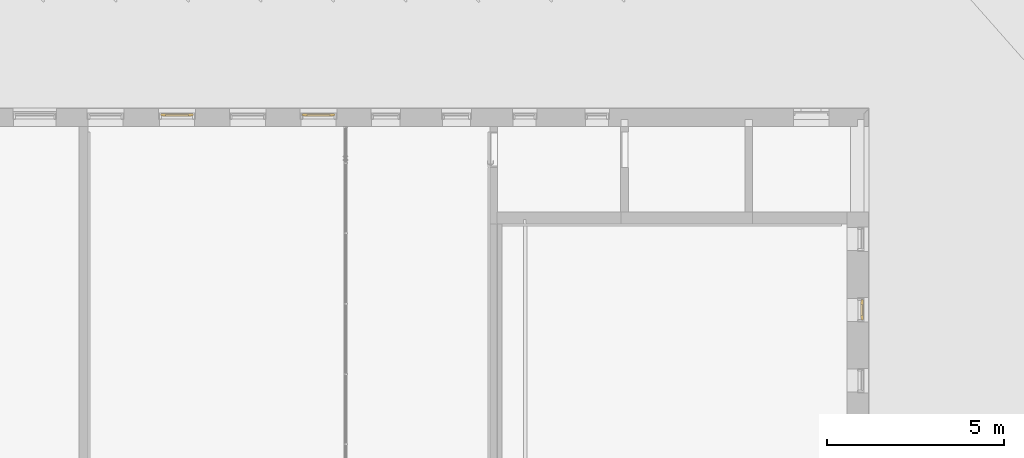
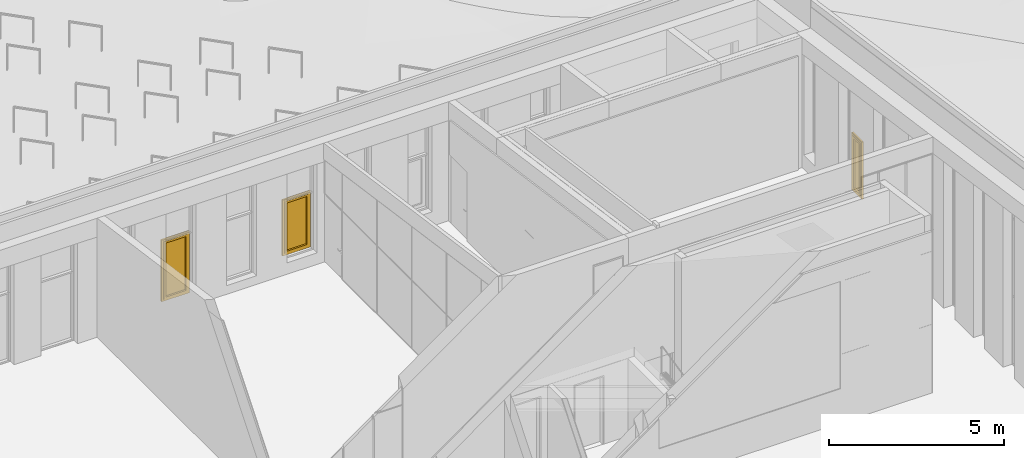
# One storey, part 164 of 246: 3 windows, 3 elements without a shape of their own.
"""IFC2X3 building model written with IfcOpenShell, lengths in millimetres."""

import ifcopenshell
import ifcopenshell.guid

model = None  # the IFC model being written
_history = None  # IfcOwnerHistory: only IFC2X3 demands one
_inside = {}  # id of a spatial element -> (the spatial element, [elements in it])
_under = {}  # id of a project, library or spatial element -> (it, [spatial elements below it])
_declared = {}  # id of a project -> (the project, [libraries it declares])
_typed = {}  # id of a type object -> (the type object, [elements of that type])
_made_of = {}  # id of a material, layer set ... -> (it, [elements and type objects made of it])


def new_model(schema):
    """Start an empty IFC model of exactly this schema.

    Asked for "IFC4X3", IfcOpenShell would pick the latest addendum, in which some entities
    have other attributes; the version numbers below select the first issue.
    IFC2X3 requires an IfcOwnerHistory on every rooted entity: one is made here for all.
    """
    global model, _history
    if schema == "IFC4X3":
        model = ifcopenshell.file(schema_version=(4, 3, 0, 0))
    else:
        model = ifcopenshell.file(schema=schema)
    _inside.clear()
    _under.clear()
    _declared.clear()
    _typed.clear()
    _made_of.clear()
    _history = None
    if model.schema == "IFC2X3":
        org = make("IfcOrganization", Name="unknown")
        user = make(
            "IfcPersonAndOrganization",
            ThePerson=make("IfcPerson", FamilyName="unknown"),
            TheOrganization=org,
        )
        app = make(
            "IfcApplication",
            ApplicationDeveloper=org,
            Version="unknown",
            ApplicationFullName="unknown",
            ApplicationIdentifier="unknown",
        )
        _history = make(
            "IfcOwnerHistory",
            OwningUser=user,
            OwningApplication=app,
            ChangeAction="ADDED",
            CreationDate=0,
        )
    return model


def make(cls, **values):
    """One entity of the class cls with the attributes given. An attribute that is None is left unset."""
    return model.create_entity(
        cls, **{name: value for name, value in values.items() if value is not None}
    )


def entity(cls, *values):
    """Any entity or typed value of the class cls, its attributes in the order of the schema. None: left unset."""
    e = model.create_entity(cls)
    for i, value in enumerate(values):
        if value is not None:
            e[i] = value
    return e


def rooted(cls, **values):
    """An entity with a GlobalId (a new one), such as an element, a storey or a relation."""
    return make(cls, GlobalId=ifcopenshell.guid.new(), OwnerHistory=_history, **values)


def si_unit(unit_type, name, prefix=None):
    """IfcSIUnit, for example si_unit("LENGTHUNIT", "METRE", prefix="MILLI")."""
    return make("IfcSIUnit", UnitType=unit_type, Prefix=prefix, Name=name)


def converted_unit(unit_type, name, factor, base, dimensions=None, offset=None):
    """IfcConversionBasedUnit, such as the inch: factor (a typed value) times the base unit."""
    return make(
        "IfcConversionBasedUnit"
        if offset is None
        else "IfcConversionBasedUnitWithOffset",
        ConversionOffset=offset,
        Dimensions=None
        if dimensions is None
        else entity("IfcDimensionalExponents", *dimensions),
        UnitType=unit_type,
        Name=name,
        ConversionFactor=make(
            "IfcMeasureWithUnit", ValueComponent=factor, UnitComponent=base
        ),
    )


def derived_unit(unit_type, elements):
    """IfcDerivedUnit: a product of units, each with its exponent."""
    return make(
        "IfcDerivedUnit",
        Elements=[
            make("IfcDerivedUnitElement", Unit=unit, Exponent=power)
            for unit, power in elements
        ],
        UnitType=unit_type,
    )


def money_unit(currency):
    """IfcMonetaryUnit."""
    return make("IfcMonetaryUnit", Currency=currency)


def assignment(units):
    """IfcUnitAssignment: the units of a project."""
    return None if units is None else make("IfcUnitAssignment", Units=units)


def point(xyz):
    """IfcCartesianPoint."""
    return None if xyz is None else make("IfcCartesianPoint", Coordinates=xyz)


def direction(xyz):
    """IfcDirection."""
    return None if xyz is None else make("IfcDirection", DirectionRatios=xyz)


def frame(location, z_axis=None, x_axis=None):
    """IfcAxis2Placement3D, a coordinate frame: its origin and axes. An axis left out is left unset."""
    return make(
        "IfcAxis2Placement3D",
        Location=point(location),
        Axis=direction(z_axis),
        RefDirection=direction(x_axis),
    )


def origin_with_axes():
    """The frame at (0, 0, 0) with the z axis (0, 0, 1) and the x axis (1, 0, 0) written out."""
    return frame((0.0, 0.0, 0.0), z_axis=(0.0, 0.0, 1.0), x_axis=(1.0, 0.0, 0.0))


def place(relative_to, where):
    """IfcLocalPlacement: puts the frame where relative to a parent placement (None: the world)."""
    return make(
        "IfcLocalPlacement", PlacementRelTo=relative_to, RelativePlacement=where
    )


def context(
    kind, dimensions, precision=None, world=None, true_north=None, identifier=None
):
    """IfcGeometricRepresentationContext, for example the 3D "Model" context."""
    return make(
        "IfcGeometricRepresentationContext",
        ContextIdentifier=identifier,
        ContextType=kind,
        CoordinateSpaceDimension=dimensions,
        Precision=precision,
        WorldCoordinateSystem=world,
        TrueNorth=true_north,
    )


def subcontext(parent, identifier, kind, view, scale=None):
    """IfcGeometricRepresentationSubContext, for example "Body" below "Model"."""
    return make(
        "IfcGeometricRepresentationSubContext",
        ContextIdentifier=identifier,
        ContextType=kind,
        ParentContext=parent,
        TargetScale=scale,
        TargetView=view,
    )


def project(units=None, contexts=None):
    """IfcProject with its units and contexts."""
    return rooted(
        "IfcProject",
        Name="project",
        RepresentationContexts=contexts,
        UnitsInContext=assignment(units),
    )


def spatial(cls, under=None, at=None, **own):
    """A site, building, storey or space (cls), placed at a placement, below another one or the project."""
    s = rooted(cls, ObjectPlacement=at, **own)
    if under is not None:
        _under.setdefault(under.id(), (under, []))[1].append(s)
    return s


def faces_of(points, faces, orient=None, outer=None):
    """IfcFace entities. A face is a list of loops; a loop is a list of indices into points, from 0.

    orient and outer hold one flag for each loop. By default every Orientation is true, the
    first loop of a face is its IfcFaceOuterBound and the others are IfcFaceBound.
    """
    made = []
    for i, loops in enumerate(faces):
        bounds = []
        for j, loop in enumerate(loops):
            is_outer = j == 0 if outer is None else outer[i][j]
            bounds.append(
                make(
                    "IfcFaceOuterBound" if is_outer else "IfcFaceBound",
                    Bound=make("IfcPolyLoop", Polygon=[points[k] for k in loop]),
                    Orientation=True if orient is None else orient[i][j],
                )
            )
        made.append(make("IfcFace", Bounds=bounds))
    return made


def open_shell(faces, orient=None, outer=None):
    """The faces of one IfcOpenShell. surface_model builds it on its shared points."""
    return ("IfcOpenShell", faces, orient, outer)


def faceted_brep(points, faces, orient=None, outer=None, voids=None):
    """IfcFacetedBrep: a solid bounded by flat faces; with voids (closed shells), ...WithVoids."""
    shared = [point(p) for p in points]
    hull = make("IfcClosedShell", CfsFaces=faces_of(shared, faces, orient, outer))
    if voids is None:
        return make("IfcFacetedBrep", Outer=hull)
    return make(
        "IfcFacetedBrepWithVoids",
        Outer=hull,
        Voids=[
            make(cls, CfsFaces=faces_of(shared, fs, o, b)) for cls, fs, o, b in voids
        ],
    )


def surface_model(cls, points, shells):
    """IfcFaceBasedSurfaceModel or IfcShellBasedSurfaceModel (cls): surfaces that need not close."""
    shared = [point(p) for p in points]
    made = [make(c, CfsFaces=faces_of(shared, fs, o, b)) for c, fs, o, b in shells]
    if cls == "IfcFaceBasedSurfaceModel":
        return make(cls, FbsmFaces=made)
    return make(cls, SbsmBoundary=made)


def shape(context_of_items, identifier, shape_type, items):
    """IfcShapeRepresentation: the items that make up one representation, for example the "Body"."""
    return make(
        "IfcShapeRepresentation",
        ContextOfItems=context_of_items,
        RepresentationIdentifier=identifier,
        RepresentationType=shape_type,
        Items=items,
    )


def material(Name=None, Category=None):
    """IfcMaterial."""
    return make("IfcMaterial", Name=Name, Category=Category)


def material_list(materials):
    """IfcMaterialList."""
    return make("IfcMaterialList", Materials=materials)


def made_of(thing, what):
    """Note that an element or type object is made of a material, layer set ...; save() writes the relation."""
    if what is not None:
        _made_of.setdefault(what.id(), (what, []))[1].append(thing)
    return thing


def type_object(cls, material=None, **own):
    """A type object (cls), such as IfcWallType, which elements share."""
    return made_of(rooted(cls, **own), material)


def element(
    cls,
    number,
    at=None,
    inside=None,
    cuts=None,
    type_object=None,
    material=None,
    context=None,
    identifier="Body",
    shape_type=None,
    held_by="IfcProductDefinitionShape",
    body=None,
    shapes=None,
    **own,
):
    """One element of the class cls, such as IfcWall. Its Tag is "e" and its number.

    at: its placement. inside: the storey or other place that contains it. cuts: it is an
    opening in that element (IfcRelVoidsElement). A single representation is given by context,
    identifier, shape_type and body (its items); several are given by shapes. held_by: the class
    of the entity that holds the representations. save() writes the other relations.
    """
    e = rooted(cls, Tag="e%d" % number, ObjectPlacement=at, **own)
    if body is not None:
        shapes = [shape(context, identifier, shape_type, body)]
    if shapes is not None:
        e.Representation = make(held_by, Representations=shapes)
    if inside is not None:
        _inside.setdefault(inside.id(), (inside, []))[1].append(e)
    if cuts is not None:
        rooted(
            "IfcRelVoidsElement", RelatingBuildingElement=cuts, RelatedOpeningElement=e
        )
    if type_object is not None:
        _typed.setdefault(type_object.id(), (type_object, []))[1].append(e)
    return made_of(e, material)


def aggregate(whole, parts):
    """IfcRelAggregates: a whole, such as a stair, and the parts it consists of."""
    return rooted("IfcRelAggregates", RelatingObject=whole, RelatedObjects=parts)


def save(model, path):
    """Write the relations noted so far, then the file.

    IfcRelAggregates (storeys below a building ...), IfcRelContainedInSpatialStructure (elements
    in a storey), IfcRelDefinesByType, IfcRelAssociatesMaterial and IfcRelDeclares: one each for
    every whole, place, type object, material and project.
    """
    for whole, parts in _under.values():
        aggregate(whole, parts)
    for where, things in _inside.values():
        rooted(
            "IfcRelContainedInSpatialStructure",
            RelatedElements=things,
            RelatingStructure=where,
        )
    for kind, things in _typed.values():
        rooted("IfcRelDefinesByType", RelatedObjects=things, RelatingType=kind)
    for what, things in _made_of.values():
        rooted("IfcRelAssociatesMaterial", RelatedObjects=things, RelatingMaterial=what)
    for by, libraries in _declared.values():
        rooted("IfcRelDeclares", RelatingContext=by, RelatedDefinitions=libraries)
    model.write(path)


model = new_model("IFC2X3")

# Units and contexts
model_context = context("Model", 3, precision=0.01, world=origin_with_axes(), true_north=direction((0.0, 1.0)))
body_context = subcontext(model_context, "Body", "Model", "MODEL_VIEW")
ifc_project = project(units=[si_unit("LENGTHUNIT", "METRE", prefix="MILLI"), si_unit("AREAUNIT", "SQUARE_METRE"), si_unit("VOLUMEUNIT", "CUBIC_METRE"), converted_unit("PLANEANGLEUNIT", "DEGREE", entity("IfcPlaneAngleMeasure", 0.0174532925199), si_unit("PLANEANGLEUNIT", "RADIAN"), dimensions=[0, 0, 0, 0, 0, 0, 0]), si_unit("SOLIDANGLEUNIT", "STERADIAN"), money_unit("EUR"), converted_unit("TIMEUNIT", "Year", entity("IfcTimeMeasure", 31556926.0), si_unit("TIMEUNIT", "SECOND"), dimensions=[0, 0, 1, 0, 0, 0, 0]), si_unit("MASSUNIT", "GRAM", prefix="KILO"), si_unit("THERMODYNAMICTEMPERATUREUNIT", "DEGREE_CELSIUS"), si_unit("LUMINOUSINTENSITYUNIT", "LUMEN"), si_unit("ENERGYUNIT", "JOULE", prefix="MEGA"), derived_unit("THERMALCONDUCTANCEUNIT", [(si_unit("POWERUNIT", "WATT"), 1), (si_unit("LENGTHUNIT", "METRE"), -1), (si_unit("THERMODYNAMICTEMPERATUREUNIT", "KELVIN"), -1)]), derived_unit("SPECIFICHEATCAPACITYUNIT", [(si_unit("ENERGYUNIT", "JOULE"), 1), (si_unit("MASSUNIT", "GRAM", prefix="KILO"), -1), (si_unit("THERMODYNAMICTEMPERATUREUNIT", "KELVIN"), -1)]), derived_unit("MASSDENSITYUNIT", [(si_unit("MASSUNIT", "GRAM", prefix="KILO"), 1), (si_unit("VOLUMEUNIT", "CUBIC_METRE"), -1)])], contexts=[model_context])

# Site, building, storey
site_placement = place(None, origin_with_axes())
site = spatial("IfcSite", under=ifc_project, at=site_placement, Name="L.Koidula tn 11b", CompositionType="ELEMENT")
building_placement = place(site_placement, origin_with_axes())
building = spatial("IfcBuilding", under=site, at=building_placement, Name="Rakvere Riigigümnaasium", CompositionType="ELEMENT")
storey_placement = place(building_placement, origin_with_axes())
storey = spatial("IfcBuildingStorey", under=building, at=storey_placement, Name="1.korrus 0,00", CompositionType="ELEMENT", Elevation=0.0)

# Curtain wall, window
curtain_wall_type = type_object("IfcCurtainWallType", Name="Curtain Wall Type", PredefinedType="NOTDEFINED")
curtain_wall_1_placement = place(storey_placement, frame((32069.763958, 71934.4519938, 400.0), z_axis=(0.0, 0.0, 1.0), x_axis=(1.0, 0.0, 0.0)))
curtain_wall_1 = element("IfcCurtainWall", 1, at=curtain_wall_1_placement, inside=storey, type_object=curtain_wall_type, Name="KLF-08-06")
ifc_material_1 = material(Name="Alumiiniumprofiil (RAL 7021)")
ifc_material_2 = material(Name="Klaaspakett 3x")
ifc_material_list = material_list([ifc_material_1, ifc_material_2])
window_style_1 = type_object("IfcWindowStyle", Name="926 x 1951 x 54", ConstructionType="NOTDEFINED", OperationType="NOTDEFINED", ParameterTakesPrecedence=False, Sizeable=False)
window_1_placement = place(curtain_wall_1_placement, frame((6.37021457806e-06, 0.0, 1000.00003856), z_axis=(0.0, 0.0, 1.0), x_axis=(-1.0, 0.0, 0.0)))
window_1 = element("IfcWindow", 2, at=window_1_placement, type_object=window_style_1, material=ifc_material_list, Name="KLF-08-A-2", ObjectType="WINDOW", context=body_context, shape_type="SurfaceModel", body=[
    surface_model("IfcShellBasedSurfaceModel", [(450.007696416, -36.0, -950.000036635), (-450.007716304, -36.0, -950.000036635), (-396.007716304, -36.0, -896.000036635), (396.007696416, -36.0, -896.000036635)], [open_shell([[[0, 1, 2, 3]]])]),
    surface_model("IfcShellBasedSurfaceModel", [(-450.007716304, -36.0, -950.000036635), (-450.007716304, -36.0, 975.000037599), (-396.007716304, -36.0, 921.000037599), (-396.007716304, -36.0, -896.000036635)], [open_shell([[[0, 1, 2, 3]]])]),
    surface_model("IfcShellBasedSurfaceModel", [(450.007696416, -36.0, 975.000037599), (396.007696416, -36.0, 921.000037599), (-396.007716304, -36.0, 921.000037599), (-450.007716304, -36.0, 975.000037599)], [open_shell([[[0, 1, 2, 3]]])]),
    surface_model("IfcShellBasedSurfaceModel", [(450.007696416, -36.0, -950.000036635), (396.007696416, -36.0, -896.000036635), (396.007696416, -36.0, 921.000037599), (450.007696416, -36.0, 975.000037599)], [open_shell([[[0, 1, 2, 3]]])]),
    faceted_brep([(450.007696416, 34.0, -950.000036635), (450.007696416, -36.0, -950.000036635), (-450.007716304, -36.0, -950.000036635), (-450.007716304, 34.0, -950.000036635), (396.007696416, 34.0, -896.000036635), (396.007696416, -36.0, -896.000036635), (-396.007716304, -36.0, -896.000036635), (-396.007716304, 34.0, -896.000036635)], [[[0, 1, 2, 3]], [[4, 5, 1, 0]], [[1, 5, 6, 2]], [[3, 2, 6, 7]], [[0, 3, 7, 4]], [[7, 6, 5, 4]]]),
    faceted_brep([(-450.007716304, 34.0, -950.000036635), (-450.007716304, -36.0, -950.000036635), (-450.007716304, -36.0, 975.000037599), (-450.007716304, 34.0, 975.000037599), (-396.007716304, 34.0, -896.000036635), (-396.007716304, -36.0, -896.000036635), (-396.007716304, -36.0, 921.000037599), (-396.007716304, 34.0, 921.000037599)], [[[0, 1, 2, 3]], [[4, 5, 1, 0]], [[1, 5, 6, 2]], [[3, 2, 6, 7]], [[0, 3, 7, 4]], [[7, 6, 5, 4]]]),
    faceted_brep([(450.007696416, 34.0, 975.000037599), (450.007696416, -36.0, 975.000037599), (396.007696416, -36.0, 921.000037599), (396.007696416, 34.0, 921.000037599), (-450.007716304, 34.0, 975.000037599), (-450.007716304, -36.0, 975.000037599), (-396.007716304, -36.0, 921.000037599), (-396.007716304, 34.0, 921.000037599)], [[[0, 1, 2, 3]], [[4, 5, 1, 0]], [[1, 5, 6, 2]], [[3, 2, 6, 7]], [[0, 3, 7, 4]], [[7, 6, 5, 4]]]),
    faceted_brep([(450.007696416, 34.0, -950.000036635), (450.007696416, -36.0, -950.000036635), (396.007696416, -36.0, -896.000036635), (396.007696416, 34.0, -896.000036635), (450.007696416, 34.0, 975.000037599), (450.007696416, -36.0, 975.000037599), (396.007696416, -36.0, 921.000037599), (396.007696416, 34.0, 921.000037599)], [[[0, 1, 2, 3]], [[4, 5, 1, 0]], [[1, 5, 6, 2]], [[3, 2, 6, 7]], [[0, 3, 7, 4]], [[7, 6, 5, 4]]]),
    faceted_brep([(463.007690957, 27.0, -963.000031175), (463.007690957, -27.0, -963.000031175), (-463.007710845, -27.0, -963.000031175), (-463.007710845, 27.0, -963.000031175), (450.007696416, 27.0, -950.000036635), (450.007696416, -27.0, -950.000036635), (-450.007716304, -27.0, -950.000036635), (-450.007716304, 27.0, -950.000036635)], [[[0, 1, 2, 3]], [[4, 5, 1, 0]], [[1, 5, 6, 2]], [[3, 2, 6, 7]], [[0, 3, 7, 4]], [[7, 6, 5, 4]]]),
    faceted_brep([(-463.007710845, 27.0, -963.000031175), (-463.007710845, -27.0, -963.000031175), (-463.007710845, -27.0, 988.00003214), (-463.007710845, 27.0, 988.00003214), (-450.007716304, 27.0, -950.000036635), (-450.007716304, -27.0, -950.000036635), (-450.007716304, -27.0, 975.000037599), (-450.007716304, 27.0, 975.000037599)], [[[0, 1, 2, 3]], [[4, 5, 1, 0]], [[1, 5, 6, 2]], [[3, 2, 6, 7]], [[0, 3, 7, 4]], [[7, 6, 5, 4]]]),
    faceted_brep([(-463.007710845, 27.0, 988.00003214), (-463.007710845, -27.0, 988.00003214), (463.007690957, -27.0, 988.00003214), (463.007690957, 27.0, 988.00003214), (-450.007716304, 27.0, 975.000037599), (-450.007716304, -27.0, 975.000037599), (450.007696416, -27.0, 975.000037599), (450.007696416, 27.0, 975.000037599)], [[[0, 1, 2, 3]], [[4, 5, 1, 0]], [[1, 5, 6, 2]], [[3, 2, 6, 7]], [[0, 3, 7, 4]], [[7, 6, 5, 4]]]),
    faceted_brep([(463.007690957, 27.0, 988.00003214), (463.007690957, -27.0, 988.00003214), (463.007690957, -27.0, -963.000031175), (463.007690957, 27.0, -963.000031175), (450.007696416, 27.0, 975.000037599), (450.007696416, -27.0, 975.000037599), (450.007696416, -27.0, -950.000036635), (450.007696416, 27.0, -950.000036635)], [[[0, 1, 2, 3]], [[4, 5, 1, 0]], [[1, 5, 6, 2]], [[3, 2, 6, 7]], [[0, 3, 7, 4]], [[7, 6, 5, 4]]]),
    faceted_brep([(328.007696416, -36.0, -828.000036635), (328.007696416, -36.0, 853.000037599), (328.007696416, 44.0, 853.000037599), (328.007696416, 44.0, -828.000036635), (396.007696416, -36.0, -896.000036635), (396.007696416, -36.0, 921.000037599), (396.007696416, 44.0, 921.000037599), (396.007696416, 44.0, -896.000036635)], [[[0, 1, 2, 3]], [[0, 4, 5, 1]], [[1, 5, 6, 2]], [[3, 2, 6, 7]], [[4, 0, 3, 7]], [[5, 4, 7, 6]]]),
    faceted_brep([(-396.007716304, -36.0, -896.000036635), (-396.007716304, -36.0, 921.000037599), (-396.007716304, 44.0, 921.000037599), (-396.007716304, 44.0, -896.000036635), (-328.007716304, -36.0, -828.000036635), (-328.007716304, -36.0, 853.000037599), (-328.007716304, 44.0, 853.000037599), (-328.007716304, 44.0, -828.000036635)], [[[0, 1, 2, 3]], [[0, 4, 5, 1]], [[1, 5, 6, 2]], [[3, 2, 6, 7]], [[4, 0, 3, 7]], [[5, 4, 7, 6]]]),
    faceted_brep([(-396.007716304, -36.0, -896.000036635), (-328.007716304, -36.0, -828.000036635), (-328.007716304, 44.0, -828.000036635), (-396.007716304, 44.0, -896.000036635), (396.007696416, -36.0, -896.000036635), (328.007696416, -36.0, -828.000036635), (328.007696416, 44.0, -828.000036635), (396.007696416, 44.0, -896.000036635)], [[[0, 1, 2, 3]], [[0, 4, 5, 1]], [[1, 5, 6, 2]], [[3, 2, 6, 7]], [[4, 0, 3, 7]], [[5, 4, 7, 6]]]),
    faceted_brep([(396.007696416, -36.0, 921.000037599), (328.007696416, -36.0, 853.000037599), (328.007696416, 44.0, 853.000037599), (396.007696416, 44.0, 921.000037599), (-396.007716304, -36.0, 921.000037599), (-328.007716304, -36.0, 853.000037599), (-328.007716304, 44.0, 853.000037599), (-396.007716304, 44.0, 921.000037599)], [[[0, 1, 2, 3]], [[0, 4, 5, 1]], [[1, 5, 6, 2]], [[3, 2, 6, 7]], [[4, 0, 3, 7]], [[5, 4, 7, 6]]]),
    faceted_brep([(328.007696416, -27.0, -828.000036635), (-328.007716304, -27.0, -828.000036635), (-328.007716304, -11.0, -828.000036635), (328.007696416, -11.0, -828.000036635), (328.007696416, -27.0, 853.000037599), (-328.007716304, -27.0, 853.000037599), (-328.007716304, -11.0, 853.000037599), (328.007696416, -11.0, 853.000037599)], [[[0, 1, 2, 3]], [[0, 4, 5, 1]], [[1, 5, 6, 2]], [[3, 2, 6, 7]], [[4, 0, 3, 7]], [[5, 4, 7, 6]]]),
])
aggregate(curtain_wall_1, [window_1])

curtain_wall_2_placement = place(storey_placement, frame((47433.9999935, 66420.454682, 350.000073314), z_axis=(0.0, 0.0, 1.0), x_axis=(1.0, 0.0, 0.0)))
curtain_wall_2 = element("IfcCurtainWall", 3, at=curtain_wall_2_placement, inside=storey, type_object=curtain_wall_type, Name="KLF-07-13")
window_style_2 = type_object("IfcWindowStyle", Name="576 x 2001 x 54", ConstructionType="NOTDEFINED", OperationType="NOTDEFINED", ParameterTakesPrecedence=False, Sizeable=False)
window_2_placement = place(curtain_wall_2_placement, frame((0.0, -9.30983077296e-05, 1024.99992669), z_axis=(0.0, 0.0, 1.0), x_axis=(0.0, 1.0, 0.0)))
window_2 = element("IfcWindow", 4, at=window_2_placement, type_object=window_style_2, material=ifc_material_list, Name="KLF-07-A-2", ObjectType="WINDOW", context=body_context, shape_type="SurfaceModel", body=[
    surface_model("IfcShellBasedSurfaceModel", [(275.000204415, -36.0, -975.0), (-275.000284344, -36.0, -975.0), (-221.000284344, -36.0, -921.0), (221.000204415, -36.0, -921.0)], [open_shell([[[0, 1, 2, 3]]])]),
    surface_model("IfcShellBasedSurfaceModel", [(-275.000284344, -36.0, -975.0), (-275.000284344, -36.0, 1000.0), (-221.000284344, -36.0, 946.0), (-221.000284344, -36.0, -921.0)], [open_shell([[[0, 1, 2, 3]]])]),
    surface_model("IfcShellBasedSurfaceModel", [(275.000204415, -36.0, 1000.0), (221.000204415, -36.0, 946.0), (-221.000284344, -36.0, 946.0), (-275.000284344, -36.0, 1000.0)], [open_shell([[[0, 1, 2, 3]]])]),
    surface_model("IfcShellBasedSurfaceModel", [(275.000204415, -36.0, -975.0), (221.000204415, -36.0, -921.0), (221.000204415, -36.0, 946.0), (275.000204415, -36.0, 1000.0)], [open_shell([[[0, 1, 2, 3]]])]),
    faceted_brep([(275.000204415, 34.0, -975.0), (275.000204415, -36.0, -975.0), (-275.000284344, -36.0, -975.0), (-275.000284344, 34.0, -975.0), (221.000204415, 34.0, -921.0), (221.000204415, -36.0, -921.0), (-221.000284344, -36.0, -921.0), (-221.000284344, 34.0, -921.0)], [[[0, 1, 2, 3]], [[4, 5, 1, 0]], [[1, 5, 6, 2]], [[3, 2, 6, 7]], [[0, 3, 7, 4]], [[7, 6, 5, 4]]]),
    faceted_brep([(-275.000284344, 34.0, -975.0), (-275.000284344, -36.0, -975.0), (-275.000284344, -36.0, 1000.0), (-275.000284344, 34.0, 1000.0), (-221.000284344, 34.0, -921.0), (-221.000284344, -36.0, -921.0), (-221.000284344, -36.0, 946.0), (-221.000284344, 34.0, 946.0)], [[[0, 1, 2, 3]], [[4, 5, 1, 0]], [[1, 5, 6, 2]], [[3, 2, 6, 7]], [[0, 3, 7, 4]], [[7, 6, 5, 4]]]),
    faceted_brep([(275.000204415, 34.0, 1000.0), (275.000204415, -36.0, 1000.0), (221.000204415, -36.0, 946.0), (221.000204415, 34.0, 946.0), (-275.000284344, 34.0, 1000.0), (-275.000284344, -36.0, 1000.0), (-221.000284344, -36.0, 946.0), (-221.000284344, 34.0, 946.0)], [[[0, 1, 2, 3]], [[4, 5, 1, 0]], [[1, 5, 6, 2]], [[3, 2, 6, 7]], [[0, 3, 7, 4]], [[7, 6, 5, 4]]]),
    faceted_brep([(275.000204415, 34.0, -975.0), (275.000204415, -36.0, -975.0), (221.000204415, -36.0, -921.0), (221.000204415, 34.0, -921.0), (275.000204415, 34.0, 1000.0), (275.000204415, -36.0, 1000.0), (221.000204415, -36.0, 946.0), (221.000204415, 34.0, 946.0)], [[[0, 1, 2, 3]], [[4, 5, 1, 0]], [[1, 5, 6, 2]], [[3, 2, 6, 7]], [[0, 3, 7, 4]], [[7, 6, 5, 4]]]),
    faceted_brep([(288.000204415, 27.0, -988.0), (288.000204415, -27.0, -988.0), (-288.000284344, -27.0, -988.0), (-288.000284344, 27.0, -988.0), (275.000204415, 27.0, -975.0), (275.000204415, -27.0, -975.0), (-275.000284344, -27.0, -975.0), (-275.000284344, 27.0, -975.0)], [[[0, 1, 2, 3]], [[4, 5, 1, 0]], [[1, 5, 6, 2]], [[3, 2, 6, 7]], [[0, 3, 7, 4]], [[7, 6, 5, 4]]]),
    faceted_brep([(-288.000284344, 27.0, -988.0), (-288.000284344, -27.0, -988.0), (-288.000284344, -27.0, 1013.0), (-288.000284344, 27.0, 1013.0), (-275.000284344, 27.0, -975.0), (-275.000284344, -27.0, -975.0), (-275.000284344, -27.0, 1000.0), (-275.000284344, 27.0, 1000.0)], [[[0, 1, 2, 3]], [[4, 5, 1, 0]], [[1, 5, 6, 2]], [[3, 2, 6, 7]], [[0, 3, 7, 4]], [[7, 6, 5, 4]]]),
    faceted_brep([(-288.000284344, 27.0, 1013.0), (-288.000284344, -27.0, 1013.0), (288.000204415, -27.0, 1013.0), (288.000204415, 27.0, 1013.0), (-275.000284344, 27.0, 1000.0), (-275.000284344, -27.0, 1000.0), (275.000204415, -27.0, 1000.0), (275.000204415, 27.0, 1000.0)], [[[0, 1, 2, 3]], [[4, 5, 1, 0]], [[1, 5, 6, 2]], [[3, 2, 6, 7]], [[0, 3, 7, 4]], [[7, 6, 5, 4]]]),
    faceted_brep([(288.000204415, 27.0, 1013.0), (288.000204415, -27.0, 1013.0), (288.000204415, -27.0, -988.0), (288.000204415, 27.0, -988.0), (275.000204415, 27.0, 1000.0), (275.000204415, -27.0, 1000.0), (275.000204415, -27.0, -975.0), (275.000204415, 27.0, -975.0)], [[[0, 1, 2, 3]], [[4, 5, 1, 0]], [[1, 5, 6, 2]], [[3, 2, 6, 7]], [[0, 3, 7, 4]], [[7, 6, 5, 4]]]),
    faceted_brep([(153.000204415, -36.0, -853.0), (153.000204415, -36.0, 878.0), (153.000204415, 44.0, 878.0), (153.000204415, 44.0, -853.0), (221.000204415, -36.0, -921.0), (221.000204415, -36.0, 946.0), (221.000204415, 44.0, 946.0), (221.000204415, 44.0, -921.0)], [[[0, 1, 2, 3]], [[0, 4, 5, 1]], [[1, 5, 6, 2]], [[3, 2, 6, 7]], [[4, 0, 3, 7]], [[5, 4, 7, 6]]]),
    faceted_brep([(-221.000284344, -36.0, -921.0), (-221.000284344, -36.0, 946.0), (-221.000284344, 44.0, 946.0), (-221.000284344, 44.0, -921.0), (-153.000284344, -36.0, -853.0), (-153.000284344, -36.0, 878.0), (-153.000284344, 44.0, 878.0), (-153.000284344, 44.0, -853.0)], [[[0, 1, 2, 3]], [[0, 4, 5, 1]], [[1, 5, 6, 2]], [[3, 2, 6, 7]], [[4, 0, 3, 7]], [[5, 4, 7, 6]]]),
    faceted_brep([(-221.000284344, -36.0, -921.0), (-153.000284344, -36.0, -853.0), (-153.000284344, 44.0, -853.0), (-221.000284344, 44.0, -921.0), (221.000204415, -36.0, -921.0), (153.000204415, -36.0, -853.0), (153.000204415, 44.0, -853.0), (221.000204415, 44.0, -921.0)], [[[0, 1, 2, 3]], [[0, 4, 5, 1]], [[1, 5, 6, 2]], [[3, 2, 6, 7]], [[4, 0, 3, 7]], [[5, 4, 7, 6]]]),
    faceted_brep([(221.000204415, -36.0, 946.0), (153.000204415, -36.0, 878.0), (153.000204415, 44.0, 878.0), (221.000204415, 44.0, 946.0), (-221.000284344, -36.0, 946.0), (-153.000284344, -36.0, 878.0), (-153.000284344, 44.0, 878.0), (-221.000284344, 44.0, 946.0)], [[[0, 1, 2, 3]], [[0, 4, 5, 1]], [[1, 5, 6, 2]], [[3, 2, 6, 7]], [[4, 0, 3, 7]], [[5, 4, 7, 6]]]),
    faceted_brep([(153.000204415, -27.0, -853.0), (-153.000284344, -27.0, -853.0), (-153.000284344, -11.0, -853.0), (153.000204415, -11.0, -853.0), (153.000204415, -27.0, 878.0), (-153.000284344, -27.0, 878.0), (-153.000284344, -11.0, 878.0), (153.000204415, -11.0, 878.0)], [[[0, 1, 2, 3]], [[0, 4, 5, 1]], [[1, 5, 6, 2]], [[3, 2, 6, 7]], [[4, 0, 3, 7]], [[5, 4, 7, 6]]]),
])
aggregate(curtain_wall_2, [window_2])

curtain_wall_3_placement = place(storey_placement, frame((28069.5354311, 71934.4519938, 200.0), z_axis=(0.0, 0.0, 1.0), x_axis=(1.0, 0.0, 0.0)))
curtain_wall_3 = element("IfcCurtainWall", 5, at=curtain_wall_3_placement, inside=storey, type_object=curtain_wall_type, Name="KLF-08-04")
window_style_3 = type_object("IfcWindowStyle", Name="926 x 2151 x 54", ConstructionType="NOTDEFINED", OperationType="NOTDEFINED", ParameterTakesPrecedence=False, Sizeable=False)
window_3_placement = place(curtain_wall_3_placement, frame((-5.96592641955e-06, 0.0, 1100.00003856), z_axis=(0.0, 0.0, 1.0), x_axis=(-1.0, 0.0, 0.0)))
window_3 = element("IfcWindow", 6, at=window_3_placement, type_object=window_style_3, material=ifc_material_list, Name="KLF-08-A-1", ObjectType="WINDOW", context=body_context, shape_type="SurfaceModel", body=[
    surface_model("IfcShellBasedSurfaceModel", [(450.000014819, -36.0, -1050.00003681), (-450.000016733, -36.0, -1050.00003681), (-396.000016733, -36.0, -996.00003681), (396.000014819, -36.0, -996.00003681)], [open_shell([[[0, 1, 2, 3]]])]),
    surface_model("IfcShellBasedSurfaceModel", [(-450.000016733, -36.0, -1050.00003681), (-450.000016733, -36.0, 1075.00003769), (-396.000016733, -36.0, 1021.00003769), (-396.000016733, -36.0, -996.00003681)], [open_shell([[[0, 1, 2, 3]]])]),
    surface_model("IfcShellBasedSurfaceModel", [(450.000014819, -36.0, 1075.00003769), (396.000014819, -36.0, 1021.00003769), (-396.000016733, -36.0, 1021.00003769), (-450.000016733, -36.0, 1075.00003769)], [open_shell([[[0, 1, 2, 3]]])]),
    surface_model("IfcShellBasedSurfaceModel", [(450.000014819, -36.0, -1050.00003681), (396.000014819, -36.0, -996.00003681), (396.000014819, -36.0, 1021.00003769), (450.000014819, -36.0, 1075.00003769)], [open_shell([[[0, 1, 2, 3]]])]),
    faceted_brep([(450.000014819, 34.0, -1050.00003681), (450.000014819, -36.0, -1050.00003681), (-450.000016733, -36.0, -1050.00003681), (-450.000016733, 34.0, -1050.00003681), (396.000014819, 34.0, -996.00003681), (396.000014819, -36.0, -996.00003681), (-396.000016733, -36.0, -996.00003681), (-396.000016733, 34.0, -996.00003681)], [[[0, 1, 2, 3]], [[4, 5, 1, 0]], [[1, 5, 6, 2]], [[3, 2, 6, 7]], [[0, 3, 7, 4]], [[7, 6, 5, 4]]]),
    faceted_brep([(-450.000016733, 34.0, -1050.00003681), (-450.000016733, -36.0, -1050.00003681), (-450.000016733, -36.0, 1075.00003769), (-450.000016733, 34.0, 1075.00003769), (-396.000016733, 34.0, -996.00003681), (-396.000016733, -36.0, -996.00003681), (-396.000016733, -36.0, 1021.00003769), (-396.000016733, 34.0, 1021.00003769)], [[[0, 1, 2, 3]], [[4, 5, 1, 0]], [[1, 5, 6, 2]], [[3, 2, 6, 7]], [[0, 3, 7, 4]], [[7, 6, 5, 4]]]),
    faceted_brep([(450.000014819, 34.0, 1075.00003769), (450.000014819, -36.0, 1075.00003769), (396.000014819, -36.0, 1021.00003769), (396.000014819, 34.0, 1021.00003769), (-450.000016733, 34.0, 1075.00003769), (-450.000016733, -36.0, 1075.00003769), (-396.000016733, -36.0, 1021.00003769), (-396.000016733, 34.0, 1021.00003769)], [[[0, 1, 2, 3]], [[4, 5, 1, 0]], [[1, 5, 6, 2]], [[3, 2, 6, 7]], [[0, 3, 7, 4]], [[7, 6, 5, 4]]]),
    faceted_brep([(450.000014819, 34.0, -1050.00003681), (450.000014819, -36.0, -1050.00003681), (396.000014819, -36.0, -996.00003681), (396.000014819, 34.0, -996.00003681), (450.000014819, 34.0, 1075.00003769), (450.000014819, -36.0, 1075.00003769), (396.000014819, -36.0, 1021.00003769), (396.000014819, 34.0, 1021.00003769)], [[[0, 1, 2, 3]], [[4, 5, 1, 0]], [[1, 5, 6, 2]], [[3, 2, 6, 7]], [[0, 3, 7, 4]], [[7, 6, 5, 4]]]),
    faceted_brep([(463.000015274, 27.0, -1063.00003727), (463.000015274, -27.0, -1063.00003727), (-463.000017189, -27.0, -1063.00003727), (-463.000017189, 27.0, -1063.00003727), (450.000014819, 27.0, -1050.00003681), (450.000014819, -27.0, -1050.00003681), (-450.000016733, -27.0, -1050.00003681), (-450.000016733, 27.0, -1050.00003681)], [[[0, 1, 2, 3]], [[4, 5, 1, 0]], [[1, 5, 6, 2]], [[3, 2, 6, 7]], [[0, 3, 7, 4]], [[7, 6, 5, 4]]]),
    faceted_brep([(-463.000017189, 27.0, -1063.00003727), (-463.000017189, -27.0, -1063.00003727), (-463.000017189, -27.0, 1088.00003814), (-463.000017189, 27.0, 1088.00003814), (-450.000016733, 27.0, -1050.00003681), (-450.000016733, -27.0, -1050.00003681), (-450.000016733, -27.0, 1075.00003769), (-450.000016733, 27.0, 1075.00003769)], [[[0, 1, 2, 3]], [[4, 5, 1, 0]], [[1, 5, 6, 2]], [[3, 2, 6, 7]], [[0, 3, 7, 4]], [[7, 6, 5, 4]]]),
    faceted_brep([(-463.000017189, 27.0, 1088.00003814), (-463.000017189, -27.0, 1088.00003814), (463.000015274, -27.0, 1088.00003814), (463.000015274, 27.0, 1088.00003814), (-450.000016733, 27.0, 1075.00003769), (-450.000016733, -27.0, 1075.00003769), (450.000014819, -27.0, 1075.00003769), (450.000014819, 27.0, 1075.00003769)], [[[0, 1, 2, 3]], [[4, 5, 1, 0]], [[1, 5, 6, 2]], [[3, 2, 6, 7]], [[0, 3, 7, 4]], [[7, 6, 5, 4]]]),
    faceted_brep([(463.000015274, 27.0, 1088.00003814), (463.000015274, -27.0, 1088.00003814), (463.000015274, -27.0, -1063.00003727), (463.000015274, 27.0, -1063.00003727), (450.000014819, 27.0, 1075.00003769), (450.000014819, -27.0, 1075.00003769), (450.000014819, -27.0, -1050.00003681), (450.000014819, 27.0, -1050.00003681)], [[[0, 1, 2, 3]], [[4, 5, 1, 0]], [[1, 5, 6, 2]], [[3, 2, 6, 7]], [[0, 3, 7, 4]], [[7, 6, 5, 4]]]),
    faceted_brep([(328.000014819, -36.0, -928.00003681), (328.000014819, -36.0, 953.000037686), (328.000014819, 44.0, 953.000037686), (328.000014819, 44.0, -928.00003681), (396.000014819, -36.0, -996.00003681), (396.000014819, -36.0, 1021.00003769), (396.000014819, 44.0, 1021.00003769), (396.000014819, 44.0, -996.00003681)], [[[0, 1, 2, 3]], [[0, 4, 5, 1]], [[1, 5, 6, 2]], [[3, 2, 6, 7]], [[4, 0, 3, 7]], [[5, 4, 7, 6]]]),
    faceted_brep([(-396.000016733, -36.0, -996.00003681), (-396.000016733, -36.0, 1021.00003769), (-396.000016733, 44.0, 1021.00003769), (-396.000016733, 44.0, -996.00003681), (-328.000016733, -36.0, -928.00003681), (-328.000016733, -36.0, 953.000037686), (-328.000016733, 44.0, 953.000037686), (-328.000016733, 44.0, -928.00003681)], [[[0, 1, 2, 3]], [[0, 4, 5, 1]], [[1, 5, 6, 2]], [[3, 2, 6, 7]], [[4, 0, 3, 7]], [[5, 4, 7, 6]]]),
    faceted_brep([(-396.000016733, -36.0, -996.00003681), (-328.000016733, -36.0, -928.00003681), (-328.000016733, 44.0, -928.00003681), (-396.000016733, 44.0, -996.00003681), (396.000014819, -36.0, -996.00003681), (328.000014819, -36.0, -928.00003681), (328.000014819, 44.0, -928.00003681), (396.000014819, 44.0, -996.00003681)], [[[0, 1, 2, 3]], [[0, 4, 5, 1]], [[1, 5, 6, 2]], [[3, 2, 6, 7]], [[4, 0, 3, 7]], [[5, 4, 7, 6]]]),
    faceted_brep([(396.000014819, -36.0, 1021.00003769), (328.000014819, -36.0, 953.000037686), (328.000014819, 44.0, 953.000037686), (396.000014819, 44.0, 1021.00003769), (-396.000016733, -36.0, 1021.00003769), (-328.000016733, -36.0, 953.000037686), (-328.000016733, 44.0, 953.000037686), (-396.000016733, 44.0, 1021.00003769)], [[[0, 1, 2, 3]], [[0, 4, 5, 1]], [[1, 5, 6, 2]], [[3, 2, 6, 7]], [[4, 0, 3, 7]], [[5, 4, 7, 6]]]),
    faceted_brep([(328.000014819, -27.0, -928.00003681), (-328.000016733, -27.0, -928.00003681), (-328.000016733, -11.0, -928.00003681), (328.000014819, -11.0, -928.00003681), (328.000014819, -27.0, 953.000037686), (-328.000016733, -27.0, 953.000037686), (-328.000016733, -11.0, 953.000037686), (328.000014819, -11.0, 953.000037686)], [[[0, 1, 2, 3]], [[0, 4, 5, 1]], [[1, 5, 6, 2]], [[3, 2, 6, 7]], [[4, 0, 3, 7]], [[5, 4, 7, 6]]]),
])
aggregate(curtain_wall_3, [window_3])

save(model, "model.ifc")
